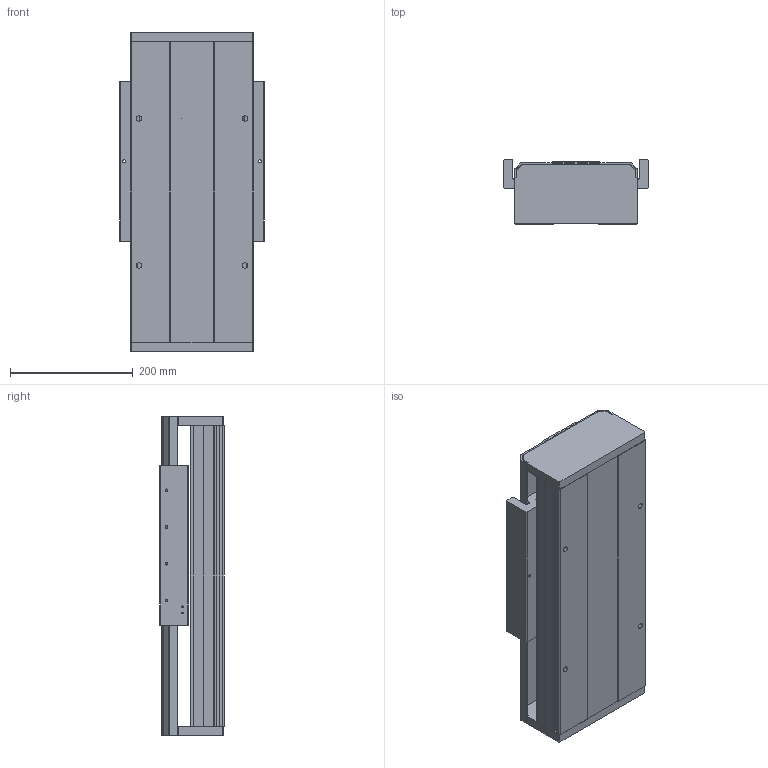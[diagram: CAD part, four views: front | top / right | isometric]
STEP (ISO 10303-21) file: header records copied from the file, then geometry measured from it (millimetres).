
FILE_DESCRIPTION (( 'STEP AP214' ), '1' );
FILE_NAME ('RF20-4-1-S.STEP', '2016-12-06T05:35:16', ( 'baejh' ), ( '' ), 'SwSTEP 2.0', 'SolidWorks 2014', '' );
FILE_SCHEMA (( 'AUTOMOTIVE_DESIGN' ));
Length unit declared in the file: millimetre
Products named in the file (1): RF20-4-1-S
Bounding box: 236 x 105 x 520 mm (x, y, z)
Volume: 4481807.7 mm3; surface area: 1059912.7 mm2
Topology: 5 solids, 5 shells, 410 faces, 1162 edges, 752 vertices
Faces by surface type: plane 242, cylinder 144, cone 24
Entity records: 13684 total; most frequent: CARTESIAN_POINT 2301, ORIENTED_EDGE 2276, DIRECTION 2256, EDGE_CURVE 1138, VECTOR 842, LINE 842, VERTEX_POINT 752, AXIS2_PLACEMENT_3D 707
